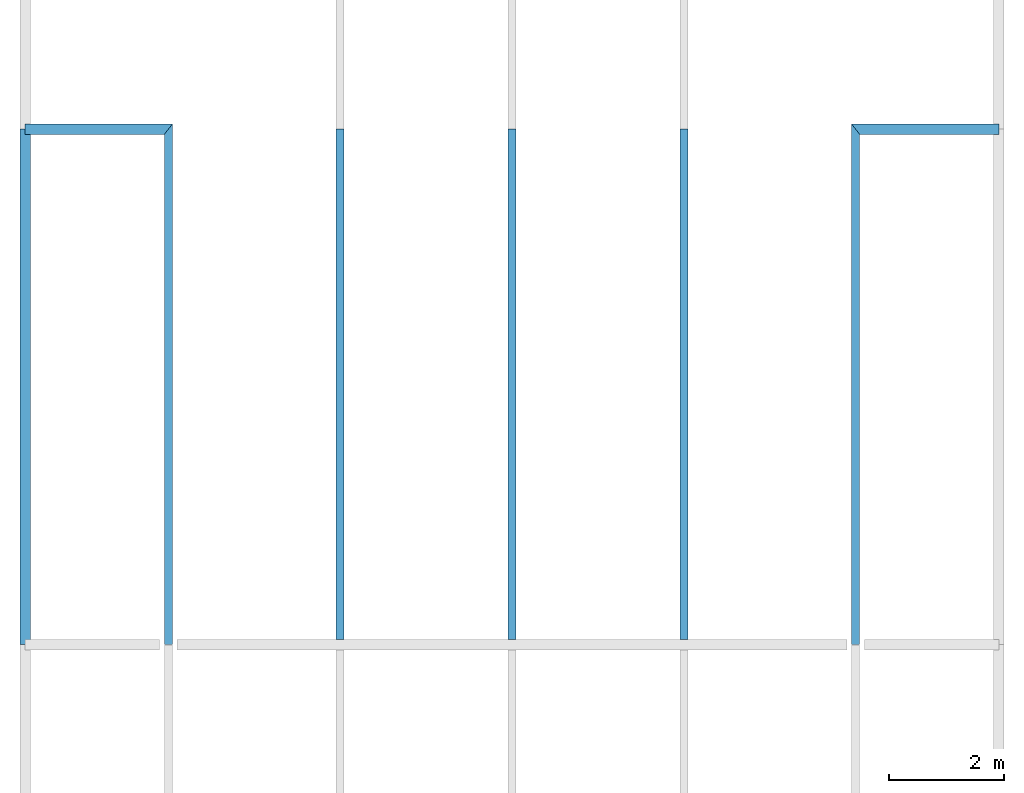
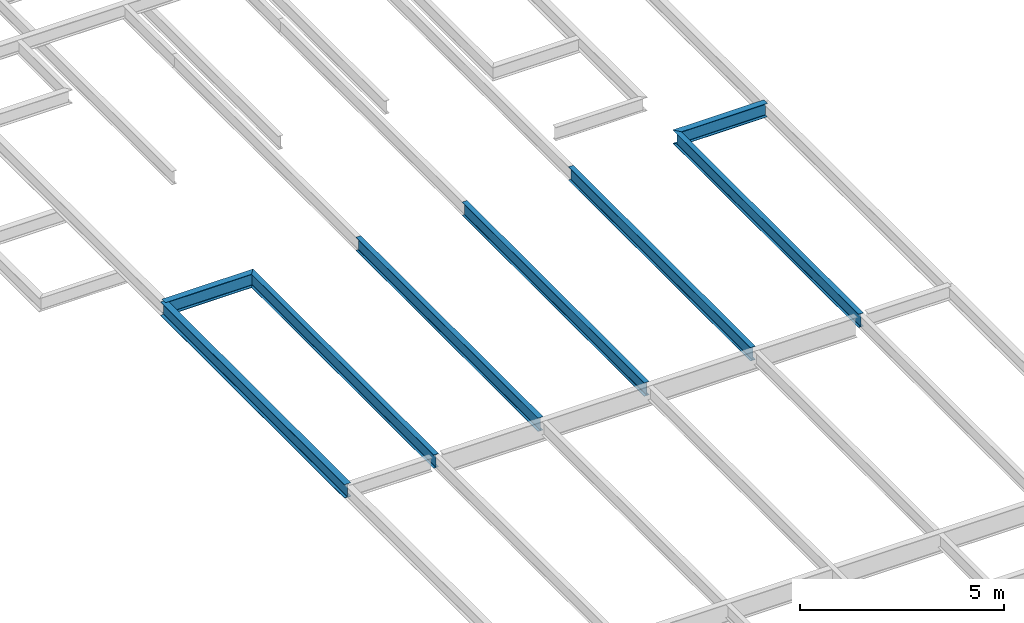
# One storey, part 3 of 7: 8 beams.
"""IFC2X3 building model written with IfcOpenShell, lengths in millimetres."""

from ifc_helpers import new_model, si_unit, origin, place, context, project, spatial, faceted_brep, material, element, save


model = new_model("IFC2X3")

# Units and contexts
context_of_model = context(None, 3, precision=1e-05, world=origin())
ifc_project = project(units=[si_unit("LENGTHUNIT", "METRE", prefix="MILLI")], contexts=[context_of_model])

# Building, storey
building = spatial("IfcBuilding", under=ifc_project, Name="Building", CompositionType="ELEMENT")
storey = spatial("IfcBuildingStorey", under=building, Name="ROF-FRM", CompositionType="ELEMENT")

# Beams
ifc_material_1 = material(Name="A992")
beam_1_placement = place(None, origin())
element("IfcBeam", 1, at=beam_1_placement, inside=storey, material=ifc_material_1, Name="B1131", context=context_of_model, shape_type="Brep", body=[
    faceted_brep([(12070.0, 17911.0, 31266.0), (11930.0, 18089.0, 31266.0), (14500.0, 18089.0, 31266.0), (14500.0, 17911.0, 31266.0), (11930.0, 18089.0, 31278.8), (14500.0, 18089.0, 31278.8), (11988.9, 18014.0, 31278.8), (14500.0, 18014.0, 31278.8), (11990.2, 18012.5, 31278.9), (14500.0, 18012.5, 31278.9), (11991.4, 18010.9, 31279.3), (14500.0, 18010.9, 31279.3), (11992.6, 18009.4, 31279.9), (14500.0, 18009.4, 31279.9), (11993.6, 18008.1, 31280.7), (14500.0, 18008.1, 31280.7), (11994.6, 18006.8, 31281.8), (14500.0, 18006.8, 31281.8), (11995.4, 18005.8, 31283.0), (14500.0, 18005.8, 31283.0), (11996.1, 18005.0, 31284.3), (14500.0, 18005.0, 31284.4), (11996.6, 18004.4, 31285.8), (14500.0, 18004.3, 31285.8), (11996.9, 18004.0, 31287.4), (14500.0, 18004.0, 31287.4), (11997.0, 18003.8, 31289.0), (14500.0, 18003.8, 31289.0), (11997.0, 18003.8, 31650.0), (14500.0, 18003.8, 31650.0), (11996.9, 18004.0, 31651.6), (14500.0, 18004.0, 31651.6), (11996.6, 18004.4, 31653.2), (14500.0, 18004.3, 31653.2), (11996.1, 18005.0, 31654.7), (14500.0, 18005.0, 31654.6), (11995.4, 18005.8, 31656.0), (14500.0, 18005.8, 31656.0), (11994.6, 18006.8, 31657.2), (14500.0, 18006.8, 31657.2), (11993.6, 18008.1, 31658.3), (14500.0, 18008.1, 31658.3), (11992.6, 18009.4, 31659.1), (14500.0, 18009.4, 31659.1), (11991.4, 18010.9, 31659.7), (14500.0, 18010.9, 31659.7), (11990.2, 18012.5, 31660.1), (14500.0, 18012.5, 31660.1), (11988.9, 18014.0, 31660.2), (14500.0, 18014.0, 31660.2), (11930.0, 18089.0, 31660.2), (14500.0, 18089.0, 31660.2), (11930.0, 18089.0, 31673.0), (14500.0, 18089.0, 31673.0), (12070.0, 17911.0, 31673.0), (14500.0, 17911.0, 31673.0), (12070.0, 17911.0, 31660.2), (14500.0, 17911.0, 31660.2), (12011.1, 17986.0, 31660.2), (14500.0, 17986.0, 31660.2), (12009.8, 17987.5, 31660.1), (14500.0, 17987.5, 31660.1), (12008.6, 17989.1, 31659.7), (14500.0, 17989.1, 31659.7), (12007.4, 17990.6, 31659.1), (14500.0, 17990.6, 31659.1), (12006.4, 17991.9, 31658.3), (14500.0, 17991.9, 31658.3), (12005.4, 17993.2, 31657.2), (14500.0, 17993.2, 31657.2), (12004.6, 17994.2, 31656.0), (14500.0, 17994.2, 31656.0), (12003.9, 17995.0, 31654.7), (14500.0, 17995.0, 31654.6), (12003.4, 17995.6, 31653.2), (14500.0, 17995.7, 31653.2), (12003.1, 17996.0, 31651.6), (14500.0, 17996.0, 31651.6), (12003.0, 17996.2, 31650.0), (14500.0, 17996.2, 31650.0), (12003.0, 17996.2, 31289.0), (14500.0, 17996.2, 31289.0), (12003.1, 17996.0, 31287.4), (14500.0, 17996.0, 31287.4), (12003.4, 17995.6, 31285.8), (14500.0, 17995.7, 31285.8), (12003.9, 17995.0, 31284.3), (14500.0, 17995.0, 31284.4), (12004.6, 17994.2, 31283.0), (14500.0, 17994.2, 31283.0), (12005.4, 17993.2, 31281.8), (14500.0, 17993.2, 31281.8), (12006.4, 17991.9, 31280.7), (14500.0, 17991.9, 31280.7), (12007.4, 17990.6, 31279.9), (14500.0, 17990.6, 31279.9), (12008.6, 17989.1, 31279.3), (14500.0, 17989.1, 31279.3), (12009.8, 17987.5, 31278.9), (14500.0, 17987.5, 31278.9), (12011.1, 17986.0, 31278.8), (14500.0, 17986.0, 31278.8), (12070.0, 17911.0, 31278.8), (14500.0, 17911.0, 31278.8)], [[[0, 1, 2, 3]], [[1, 4, 5, 2]], [[4, 6, 7, 5]], [[6, 8, 9, 7]], [[8, 10, 11, 9]], [[10, 12, 13, 11]], [[12, 14, 15, 13]], [[14, 16, 17, 15]], [[16, 18, 19, 17]], [[18, 20, 21, 19]], [[20, 22, 23, 21]], [[22, 24, 25, 23]], [[24, 26, 27, 25]], [[26, 28, 29, 27]], [[28, 30, 31, 29]], [[30, 32, 33, 31]], [[32, 34, 35, 33]], [[34, 36, 37, 35]], [[36, 38, 39, 37]], [[38, 40, 41, 39]], [[40, 42, 43, 41]], [[42, 44, 45, 43]], [[44, 46, 47, 45]], [[46, 48, 49, 47]], [[48, 50, 51, 49]], [[50, 52, 53, 51]], [[52, 54, 55, 53]], [[54, 56, 57, 55]], [[56, 58, 59, 57]], [[58, 60, 61, 59]], [[60, 62, 63, 61]], [[62, 64, 65, 63]], [[64, 66, 67, 65]], [[66, 68, 69, 67]], [[68, 70, 71, 69]], [[70, 72, 73, 71]], [[72, 74, 75, 73]], [[74, 76, 77, 75]], [[76, 78, 79, 77]], [[78, 80, 81, 79]], [[80, 82, 83, 81]], [[82, 84, 85, 83]], [[84, 86, 87, 85]], [[86, 88, 89, 87]], [[88, 90, 91, 89]], [[90, 92, 93, 91]], [[92, 94, 95, 93]], [[94, 96, 97, 95]], [[96, 98, 99, 97]], [[98, 100, 101, 99]], [[100, 102, 103, 101]], [[102, 0, 3, 103]], [[0, 102, 100, 98, 96, 94, 92, 90, 88, 86, 84, 82, 80, 78, 76, 74, 72, 70, 68, 66, 64, 62, 60, 58, 56, 54, 52, 50, 48, 46, 44, 42, 40, 38, 36, 34, 32, 30, 28, 26, 24, 22, 20, 18, 16, 14, 12, 10, 8, 6, 4, 1]], [[3, 2, 5, 7, 9, 11, 13, 15, 17, 19, 21, 23, 25, 27, 29, 31, 33, 35, 37, 39, 41, 43, 45, 47, 49, 51, 53, 55, 57, 59, 61, 63, 65, 67, 69, 71, 73, 75, 77, 79, 81, 83, 85, 87, 89, 91, 93, 95, 97, 99, 101, 103]]]),
])
ifc_material_2 = material(Name="A992")
beam_2_placement = place(None, origin())
element("IfcBeam", 2, at=beam_2_placement, inside=storey, material=ifc_material_2, Name="B1133", context=context_of_model, shape_type="Brep", body=[
    faceted_brep([(70.0, 18089.0, 31266.0), (-70.0, 17911.0, 31266.0), (-2500.0, 17911.0, 31266.0), (-2500.0, 18089.0, 31266.0), (-70.0, 17911.0, 31278.8), (-2500.0, 17911.0, 31278.8), (-11.0506, 17986.0, 31278.8), (-2500.0, 17986.0, 31278.8), (-9.80449, 17987.5, 31278.9), (-2500.0, 17987.5, 31278.9), (-8.57873, 17989.1, 31279.3), (-2500.0, 17989.1, 31279.3), (-7.42447, 17990.6, 31279.9), (-2500.0, 17990.6, 31279.9), (-6.35493, 17991.9, 31280.7), (-2500.0, 17991.9, 31280.7), (-5.37782, 17993.2, 31281.8), (-2500.0, 17993.2, 31281.8), (-4.58069, 17994.2, 31283.0), (-2500.0, 17994.2, 31283.0), (-3.90853, 17995.0, 31284.3), (-2500.0, 17995.0, 31284.4), (-3.43281, 17995.6, 31285.8), (-2500.0, 17995.7, 31285.8), (-3.14474, 17996.0, 31287.4), (-2500.0, 17996.0, 31287.4), (-3.02809, 17996.2, 31289.0), (-2500.0, 17996.2, 31289.0), (-3.02809, 17996.2, 31650.0), (-2500.0, 17996.2, 31650.0), (-3.14474, 17996.0, 31651.6), (-2500.0, 17996.0, 31651.6), (-3.43281, 17995.6, 31653.2), (-2500.0, 17995.7, 31653.2), (-3.90853, 17995.0, 31654.7), (-2500.0, 17995.0, 31654.6), (-4.58069, 17994.2, 31656.0), (-2500.0, 17994.2, 31656.0), (-5.37782, 17993.2, 31657.2), (-2500.0, 17993.2, 31657.2), (-6.35493, 17991.9, 31658.3), (-2500.0, 17991.9, 31658.3), (-7.42447, 17990.6, 31659.1), (-2500.0, 17990.6, 31659.1), (-8.57873, 17989.1, 31659.7), (-2500.0, 17989.1, 31659.7), (-9.80449, 17987.5, 31660.1), (-2500.0, 17987.5, 31660.1), (-11.0506, 17986.0, 31660.2), (-2500.0, 17986.0, 31660.2), (-70.0, 17911.0, 31660.2), (-2500.0, 17911.0, 31660.2), (-70.0, 17911.0, 31673.0), (-2500.0, 17911.0, 31673.0), (70.0, 18089.0, 31673.0), (-2500.0, 18089.0, 31673.0), (70.0, 18089.0, 31660.2), (-2500.0, 18089.0, 31660.2), (11.0506, 18014.0, 31660.2), (-2500.0, 18014.0, 31660.2), (9.80449, 18012.5, 31660.1), (-2500.0, 18012.5, 31660.1), (8.57873, 18010.9, 31659.7), (-2500.0, 18010.9, 31659.7), (7.42447, 18009.4, 31659.1), (-2500.0, 18009.4, 31659.1), (6.35493, 18008.1, 31658.3), (-2500.0, 18008.1, 31658.3), (5.37782, 18006.8, 31657.2), (-2500.0, 18006.8, 31657.2), (4.58069, 18005.8, 31656.0), (-2500.0, 18005.8, 31656.0), (3.90853, 18005.0, 31654.7), (-2500.0, 18005.0, 31654.6), (3.43281, 18004.4, 31653.2), (-2500.0, 18004.3, 31653.2), (3.14474, 18004.0, 31651.6), (-2500.0, 18004.0, 31651.6), (3.02809, 18003.8, 31650.0), (-2500.0, 18003.8, 31650.0), (3.02809, 18003.8, 31289.0), (-2500.0, 18003.8, 31289.0), (3.14474, 18004.0, 31287.4), (-2500.0, 18004.0, 31287.4), (3.43281, 18004.4, 31285.8), (-2500.0, 18004.3, 31285.8), (3.90853, 18005.0, 31284.3), (-2500.0, 18005.0, 31284.4), (4.58069, 18005.8, 31283.0), (-2500.0, 18005.8, 31283.0), (5.37782, 18006.8, 31281.8), (-2500.0, 18006.8, 31281.8), (6.35493, 18008.1, 31280.7), (-2500.0, 18008.1, 31280.7), (7.42447, 18009.4, 31279.9), (-2500.0, 18009.4, 31279.9), (8.57873, 18010.9, 31279.3), (-2500.0, 18010.9, 31279.3), (9.80449, 18012.5, 31278.9), (-2500.0, 18012.5, 31278.9), (11.0506, 18014.0, 31278.8), (-2500.0, 18014.0, 31278.8), (70.0, 18089.0, 31278.8), (-2500.0, 18089.0, 31278.8)], [[[0, 1, 2, 3]], [[1, 4, 5, 2]], [[4, 6, 7, 5]], [[6, 8, 9, 7]], [[8, 10, 11, 9]], [[10, 12, 13, 11]], [[12, 14, 15, 13]], [[14, 16, 17, 15]], [[16, 18, 19, 17]], [[18, 20, 21, 19]], [[20, 22, 23, 21]], [[22, 24, 25, 23]], [[24, 26, 27, 25]], [[26, 28, 29, 27]], [[28, 30, 31, 29]], [[30, 32, 33, 31]], [[32, 34, 35, 33]], [[34, 36, 37, 35]], [[36, 38, 39, 37]], [[38, 40, 41, 39]], [[40, 42, 43, 41]], [[42, 44, 45, 43]], [[44, 46, 47, 45]], [[46, 48, 49, 47]], [[48, 50, 51, 49]], [[50, 52, 53, 51]], [[52, 54, 55, 53]], [[54, 56, 57, 55]], [[56, 58, 59, 57]], [[58, 60, 61, 59]], [[60, 62, 63, 61]], [[62, 64, 65, 63]], [[64, 66, 67, 65]], [[66, 68, 69, 67]], [[68, 70, 71, 69]], [[70, 72, 73, 71]], [[72, 74, 75, 73]], [[74, 76, 77, 75]], [[76, 78, 79, 77]], [[78, 80, 81, 79]], [[80, 82, 83, 81]], [[82, 84, 85, 83]], [[84, 86, 87, 85]], [[86, 88, 89, 87]], [[88, 90, 91, 89]], [[90, 92, 93, 91]], [[92, 94, 95, 93]], [[94, 96, 97, 95]], [[96, 98, 99, 97]], [[98, 100, 101, 99]], [[100, 102, 103, 101]], [[102, 0, 3, 103]], [[0, 102, 100, 98, 96, 94, 92, 90, 88, 86, 84, 82, 80, 78, 76, 74, 72, 70, 68, 66, 64, 62, 60, 58, 56, 54, 52, 50, 48, 46, 44, 42, 40, 38, 36, 34, 32, 30, 28, 26, 24, 22, 20, 18, 16, 14, 12, 10, 8, 6, 4, 1]], [[3, 2, 5, 7, 9, 11, 13, 15, 17, 19, 21, 23, 25, 27, 29, 31, 33, 35, 37, 39, 41, 43, 45, 47, 49, 51, 53, 55, 57, 59, 61, 63, 65, 67, 69, 71, 73, 75, 77, 79, 81, 83, 85, 87, 89, 91, 93, 95, 97, 99, 101, 103]]]),
])
ifc_material_3 = material(Name="A992")
beam_3_placement = place(None, origin())
element("IfcBeam", 3, at=beam_3_placement, inside=storey, material=ifc_material_3, Name="B1141", context=context_of_model, shape_type="Brep", body=[
    faceted_brep([(-2410.0, 9000.0, 31260.0), (-2590.0, 9000.0, 31260.0), (-2590.0, 18000.0, 31260.0), (-2410.0, 18000.0, 31260.0), (-2590.0, 9000.0, 31276.0), (-2590.0, 18000.0, 31276.0), (-2515.05, 9000.0, 31276.0), (-2515.05, 18000.0, 31276.0), (-2512.41, 9000.0, 31276.3), (-2512.41, 18000.0, 31276.3), (-2509.95, 9000.0, 31277.4), (-2509.95, 18000.0, 31277.4), (-2507.84, 9000.0, 31279.0), (-2507.84, 18000.0, 31279.0), (-2506.22, 9000.0, 31281.1), (-2506.22, 18000.0, 31281.1), (-2505.2, 9000.0, 31283.6), (-2505.2, 18000.0, 31283.6), (-2504.85, 9000.0, 31286.2), (-2504.85, 18000.0, 31286.2), (-2504.85, 9000.0, 31646.8), (-2504.85, 18000.0, 31646.8), (-2505.2, 9000.0, 31649.4), (-2505.2, 18000.0, 31649.4), (-2506.22, 9000.0, 31651.9), (-2506.22, 18000.0, 31651.9), (-2507.84, 9000.0, 31654.0), (-2507.84, 18000.0, 31654.0), (-2509.95, 9000.0, 31655.6), (-2509.95, 18000.0, 31655.6), (-2512.41, 9000.0, 31656.7), (-2512.41, 18000.0, 31656.7), (-2515.05, 9000.0, 31657.0), (-2515.05, 18000.0, 31657.0), (-2590.0, 9000.0, 31657.0), (-2590.0, 18000.0, 31657.0), (-2590.0, 9000.0, 31673.0), (-2590.0, 18000.0, 31673.0), (-2410.0, 9000.0, 31673.0), (-2410.0, 18000.0, 31673.0), (-2410.0, 9000.0, 31657.0), (-2410.0, 18000.0, 31657.0), (-2484.95, 9000.0, 31657.0), (-2484.95, 18000.0, 31657.0), (-2487.59, 9000.0, 31656.7), (-2487.59, 18000.0, 31656.7), (-2490.05, 9000.0, 31655.6), (-2490.05, 18000.0, 31655.6), (-2492.16, 9000.0, 31654.0), (-2492.16, 18000.0, 31654.0), (-2493.78, 9000.0, 31651.9), (-2493.78, 18000.0, 31651.9), (-2494.8, 9000.0, 31649.4), (-2494.8, 18000.0, 31649.4), (-2495.15, 9000.0, 31646.8), (-2495.15, 18000.0, 31646.8), (-2495.15, 9000.0, 31286.2), (-2495.15, 18000.0, 31286.2), (-2494.8, 9000.0, 31283.6), (-2494.8, 18000.0, 31283.6), (-2493.78, 9000.0, 31281.1), (-2493.78, 18000.0, 31281.1), (-2492.16, 9000.0, 31279.0), (-2492.16, 18000.0, 31279.0), (-2490.05, 9000.0, 31277.4), (-2490.05, 18000.0, 31277.4), (-2487.59, 9000.0, 31276.3), (-2487.59, 18000.0, 31276.3), (-2484.95, 9000.0, 31276.0), (-2484.95, 18000.0, 31276.0), (-2410.0, 9000.0, 31276.0), (-2410.0, 18000.0, 31276.0)], [[[0, 1, 2, 3]], [[1, 4, 5, 2]], [[4, 6, 7, 5]], [[6, 8, 9, 7]], [[8, 10, 11, 9]], [[10, 12, 13, 11]], [[12, 14, 15, 13]], [[14, 16, 17, 15]], [[16, 18, 19, 17]], [[18, 20, 21, 19]], [[20, 22, 23, 21]], [[22, 24, 25, 23]], [[24, 26, 27, 25]], [[26, 28, 29, 27]], [[28, 30, 31, 29]], [[30, 32, 33, 31]], [[32, 34, 35, 33]], [[34, 36, 37, 35]], [[36, 38, 39, 37]], [[38, 40, 41, 39]], [[40, 42, 43, 41]], [[42, 44, 45, 43]], [[44, 46, 47, 45]], [[46, 48, 49, 47]], [[48, 50, 51, 49]], [[50, 52, 53, 51]], [[52, 54, 55, 53]], [[54, 56, 57, 55]], [[56, 58, 59, 57]], [[58, 60, 61, 59]], [[60, 62, 63, 61]], [[62, 64, 65, 63]], [[64, 66, 67, 65]], [[66, 68, 69, 67]], [[68, 70, 71, 69]], [[70, 0, 3, 71]], [[0, 70, 68, 66, 64, 62, 60, 58, 56, 54, 52, 50, 48, 46, 44, 42, 40, 38, 36, 34, 32, 30, 28, 26, 24, 22, 20, 18, 16, 14, 12, 10, 8, 6, 4, 1]], [[3, 2, 5, 7, 9, 11, 13, 15, 17, 19, 21, 23, 25, 27, 29, 31, 33, 35, 37, 39, 41, 43, 45, 47, 49, 51, 53, 55, 57, 59, 61, 63, 65, 67, 69, 71]]]),
])
ifc_material_4 = material(Name="A992")
beam_4_placement = place(None, origin())
element("IfcBeam", 4, at=beam_4_placement, inside=storey, material=ifc_material_4, Name="B1158", context=context_of_model, shape_type="Brep", body=[
    faceted_brep([(5930.0, 18000.0, 31270.0), (6070.0, 18000.0, 31270.0), (6070.0, 9089.5, 31270.0), (5930.0, 9089.5, 31270.0), (6070.0, 18000.0, 31281.2), (6070.0, 9089.5, 31281.2), (6013.7, 18000.0, 31281.2), (6013.7, 9089.5, 31281.2), (6011.06, 18000.0, 31281.5), (6011.06, 9089.5, 31281.5), (6008.6, 18000.0, 31282.6), (6008.6, 9089.5, 31282.6), (6006.49, 18000.0, 31284.2), (6006.49, 9089.5, 31284.2), (6004.87, 18000.0, 31286.3), (6004.87, 9089.5, 31286.3), (6003.85, 18000.0, 31288.8), (6003.85, 9089.5, 31288.8), (6003.5, 18000.0, 31291.4), (6003.5, 9089.5, 31291.4), (6003.5, 18000.0, 31651.6), (6003.5, 9089.5, 31651.6), (6003.85, 18000.0, 31654.2), (6003.85, 9089.5, 31654.2), (6004.87, 18000.0, 31656.7), (6004.87, 9089.5, 31656.7), (6006.49, 18000.0, 31658.8), (6006.49, 9089.5, 31658.8), (6008.6, 18000.0, 31660.4), (6008.6, 9089.5, 31660.4), (6011.06, 18000.0, 31661.5), (6011.06, 9089.5, 31661.5), (6013.7, 18000.0, 31661.8), (6013.7, 9089.5, 31661.8), (6070.0, 18000.0, 31661.8), (6070.0, 9089.5, 31661.8), (6070.0, 18000.0, 31673.0), (6070.0, 9089.5, 31673.0), (5930.0, 18000.0, 31673.0), (5930.0, 9089.5, 31673.0), (5930.0, 18000.0, 31661.8), (5930.0, 9089.5, 31661.8), (5986.3, 18000.0, 31661.8), (5986.3, 9089.5, 31661.8), (5988.94, 18000.0, 31661.5), (5988.94, 9089.5, 31661.5), (5991.4, 18000.0, 31660.4), (5991.4, 9089.5, 31660.4), (5993.51, 18000.0, 31658.8), (5993.51, 9089.5, 31658.8), (5995.13, 18000.0, 31656.7), (5995.13, 9089.5, 31656.7), (5996.15, 18000.0, 31654.2), (5996.15, 9089.5, 31654.2), (5996.5, 18000.0, 31651.6), (5996.5, 9089.5, 31651.6), (5996.5, 18000.0, 31291.4), (5996.5, 9089.5, 31291.4), (5996.15, 18000.0, 31288.8), (5996.15, 9089.5, 31288.8), (5995.13, 18000.0, 31286.3), (5995.13, 9089.5, 31286.3), (5993.51, 18000.0, 31284.2), (5993.51, 9089.5, 31284.2), (5991.4, 18000.0, 31282.6), (5991.4, 9089.5, 31282.6), (5988.94, 18000.0, 31281.5), (5988.94, 9089.5, 31281.5), (5986.3, 18000.0, 31281.2), (5986.3, 9089.5, 31281.2), (5930.0, 18000.0, 31281.2), (5930.0, 9089.5, 31281.2)], [[[0, 1, 2, 3]], [[1, 4, 5, 2]], [[4, 6, 7, 5]], [[6, 8, 9, 7]], [[8, 10, 11, 9]], [[10, 12, 13, 11]], [[12, 14, 15, 13]], [[14, 16, 17, 15]], [[16, 18, 19, 17]], [[18, 20, 21, 19]], [[20, 22, 23, 21]], [[22, 24, 25, 23]], [[24, 26, 27, 25]], [[26, 28, 29, 27]], [[28, 30, 31, 29]], [[30, 32, 33, 31]], [[32, 34, 35, 33]], [[34, 36, 37, 35]], [[36, 38, 39, 37]], [[38, 40, 41, 39]], [[40, 42, 43, 41]], [[42, 44, 45, 43]], [[44, 46, 47, 45]], [[46, 48, 49, 47]], [[48, 50, 51, 49]], [[50, 52, 53, 51]], [[52, 54, 55, 53]], [[54, 56, 57, 55]], [[56, 58, 59, 57]], [[58, 60, 61, 59]], [[60, 62, 63, 61]], [[62, 64, 65, 63]], [[64, 66, 67, 65]], [[66, 68, 69, 67]], [[68, 70, 71, 69]], [[70, 0, 3, 71]], [[0, 70, 68, 66, 64, 62, 60, 58, 56, 54, 52, 50, 48, 46, 44, 42, 40, 38, 36, 34, 32, 30, 28, 26, 24, 22, 20, 18, 16, 14, 12, 10, 8, 6, 4, 1]], [[3, 2, 5, 7, 9, 11, 13, 15, 17, 19, 21, 23, 25, 27, 29, 31, 33, 35, 37, 39, 41, 43, 45, 47, 49, 51, 53, 55, 57, 59, 61, 63, 65, 67, 69, 71]]]),
])
ifc_material_5 = material(Name="A992")
beam_5_placement = place(None, origin())
element("IfcBeam", 5, at=beam_5_placement, inside=storey, material=ifc_material_5, Name="B1163", context=context_of_model, shape_type="Brep", body=[
    faceted_brep([(8930.0, 18000.0, 31270.0), (9070.0, 18000.0, 31270.0), (9070.0, 9089.5, 31270.0), (8930.0, 9089.5, 31270.0), (9070.0, 18000.0, 31281.2), (9070.0, 9089.5, 31281.2), (9013.7, 18000.0, 31281.2), (9013.7, 9089.5, 31281.2), (9011.06, 18000.0, 31281.5), (9011.06, 9089.5, 31281.5), (9008.6, 18000.0, 31282.6), (9008.6, 9089.5, 31282.6), (9006.49, 18000.0, 31284.2), (9006.49, 9089.5, 31284.2), (9004.87, 18000.0, 31286.3), (9004.87, 9089.5, 31286.3), (9003.85, 18000.0, 31288.8), (9003.85, 9089.5, 31288.8), (9003.5, 18000.0, 31291.4), (9003.5, 9089.5, 31291.4), (9003.5, 18000.0, 31651.6), (9003.5, 9089.5, 31651.6), (9003.85, 18000.0, 31654.2), (9003.85, 9089.5, 31654.2), (9004.87, 18000.0, 31656.7), (9004.87, 9089.5, 31656.7), (9006.49, 18000.0, 31658.8), (9006.49, 9089.5, 31658.8), (9008.6, 18000.0, 31660.4), (9008.6, 9089.5, 31660.4), (9011.06, 18000.0, 31661.5), (9011.06, 9089.5, 31661.5), (9013.7, 18000.0, 31661.8), (9013.7, 9089.5, 31661.8), (9070.0, 18000.0, 31661.8), (9070.0, 9089.5, 31661.8), (9070.0, 18000.0, 31673.0), (9070.0, 9089.5, 31673.0), (8930.0, 18000.0, 31673.0), (8930.0, 9089.5, 31673.0), (8930.0, 18000.0, 31661.8), (8930.0, 9089.5, 31661.8), (8986.3, 18000.0, 31661.8), (8986.3, 9089.5, 31661.8), (8988.94, 18000.0, 31661.5), (8988.94, 9089.5, 31661.5), (8991.4, 18000.0, 31660.4), (8991.4, 9089.5, 31660.4), (8993.51, 18000.0, 31658.8), (8993.51, 9089.5, 31658.8), (8995.13, 18000.0, 31656.7), (8995.13, 9089.5, 31656.7), (8996.15, 18000.0, 31654.2), (8996.15, 9089.5, 31654.2), (8996.5, 18000.0, 31651.6), (8996.5, 9089.5, 31651.6), (8996.5, 18000.0, 31291.4), (8996.5, 9089.5, 31291.4), (8996.15, 18000.0, 31288.8), (8996.15, 9089.5, 31288.8), (8995.13, 18000.0, 31286.3), (8995.13, 9089.5, 31286.3), (8993.51, 18000.0, 31284.2), (8993.51, 9089.5, 31284.2), (8991.4, 18000.0, 31282.6), (8991.4, 9089.5, 31282.6), (8988.94, 18000.0, 31281.5), (8988.94, 9089.5, 31281.5), (8986.3, 18000.0, 31281.2), (8986.3, 9089.5, 31281.2), (8930.0, 18000.0, 31281.2), (8930.0, 9089.5, 31281.2)], [[[0, 1, 2, 3]], [[1, 4, 5, 2]], [[4, 6, 7, 5]], [[6, 8, 9, 7]], [[8, 10, 11, 9]], [[10, 12, 13, 11]], [[12, 14, 15, 13]], [[14, 16, 17, 15]], [[16, 18, 19, 17]], [[18, 20, 21, 19]], [[20, 22, 23, 21]], [[22, 24, 25, 23]], [[24, 26, 27, 25]], [[26, 28, 29, 27]], [[28, 30, 31, 29]], [[30, 32, 33, 31]], [[32, 34, 35, 33]], [[34, 36, 37, 35]], [[36, 38, 39, 37]], [[38, 40, 41, 39]], [[40, 42, 43, 41]], [[42, 44, 45, 43]], [[44, 46, 47, 45]], [[46, 48, 49, 47]], [[48, 50, 51, 49]], [[50, 52, 53, 51]], [[52, 54, 55, 53]], [[54, 56, 57, 55]], [[56, 58, 59, 57]], [[58, 60, 61, 59]], [[60, 62, 63, 61]], [[62, 64, 65, 63]], [[64, 66, 67, 65]], [[66, 68, 69, 67]], [[68, 70, 71, 69]], [[70, 0, 3, 71]], [[0, 70, 68, 66, 64, 62, 60, 58, 56, 54, 52, 50, 48, 46, 44, 42, 40, 38, 36, 34, 32, 30, 28, 26, 24, 22, 20, 18, 16, 14, 12, 10, 8, 6, 4, 1]], [[3, 2, 5, 7, 9, 11, 13, 15, 17, 19, 21, 23, 25, 27, 29, 31, 33, 35, 37, 39, 41, 43, 45, 47, 49, 51, 53, 55, 57, 59, 61, 63, 65, 67, 69, 71]]]),
])
ifc_material_6 = material(Name="A992")
beam_6_placement = place(None, origin())
element("IfcBeam", 6, at=beam_6_placement, inside=storey, material=ifc_material_6, Name="B1166", context=context_of_model, shape_type="Brep", body=[
    faceted_brep([(11930.0, 18089.0, 31270.0), (12070.0, 17911.0, 31270.0), (12070.0, 9004.95, 31270.0), (11930.0, 9004.95, 31270.0), (12070.0, 17911.0, 31281.2), (12070.0, 9004.95, 31281.2), (12013.7, 17982.6, 31281.2), (12013.7, 9004.95, 31281.2), (12012.3, 17984.4, 31281.3), (12012.2, 9004.95, 31281.3), (12010.8, 17986.2, 31281.6), (12010.8, 9004.95, 31281.6), (12009.5, 17987.9, 31282.1), (12009.5, 9004.95, 31282.1), (12008.2, 17989.5, 31282.8), (12008.2, 9004.95, 31282.8), (12007.0, 17991.0, 31283.6), (12007.0, 9004.95, 31283.7), (12006.0, 17992.3, 31284.7), (12006.0, 9004.95, 31284.7), (12005.2, 17993.4, 31285.8), (12005.1, 9004.95, 31285.9), (12004.4, 17994.4, 31287.1), (12004.4, 9004.95, 31287.2), (12004.0, 17995.0, 31288.5), (12003.9, 9004.95, 31288.5), (12003.7, 17995.4, 31289.9), (12003.6, 9004.95, 31289.9), (12003.5, 17995.6, 31291.4), (12003.5, 9004.95, 31291.4), (12003.5, 17995.6, 31651.6), (12003.5, 9004.95, 31651.6), (12003.7, 17995.4, 31653.1), (12003.6, 9004.95, 31653.1), (12004.0, 17995.0, 31654.5), (12003.9, 9004.95, 31654.5), (12004.4, 17994.4, 31655.9), (12004.4, 9004.95, 31655.8), (12005.2, 17993.4, 31657.2), (12005.1, 9004.95, 31657.1), (12006.0, 17992.3, 31658.3), (12006.0, 9004.95, 31658.3), (12007.0, 17991.0, 31659.4), (12007.0, 9004.95, 31659.3), (12008.2, 17989.5, 31660.2), (12008.2, 9004.95, 31660.2), (12009.5, 17987.9, 31660.9), (12009.5, 9004.95, 31660.9), (12010.8, 17986.2, 31661.4), (12010.8, 9004.95, 31661.4), (12012.3, 17984.4, 31661.7), (12012.2, 9004.95, 31661.7), (12013.7, 17982.6, 31661.8), (12013.7, 9004.95, 31661.8), (12070.0, 17911.0, 31661.8), (12070.0, 9004.95, 31661.8), (12070.0, 17911.0, 31673.0), (12070.0, 9004.95, 31673.0), (11930.0, 18089.0, 31673.0), (11930.0, 9004.95, 31673.0), (11930.0, 18089.0, 31661.8), (11930.0, 9004.95, 31661.8), (11986.3, 18017.4, 31661.8), (11986.3, 9004.95, 31661.8), (11987.7, 18015.6, 31661.7), (11987.8, 9004.95, 31661.7), (11989.2, 18013.8, 31661.4), (11989.2, 9004.95, 31661.4), (11990.5, 18012.1, 31660.9), (11990.5, 9004.95, 31660.9), (11991.8, 18010.5, 31660.2), (11991.8, 9004.95, 31660.2), (11993.0, 18009.0, 31659.4), (11993.0, 9004.95, 31659.3), (11994.0, 18007.7, 31658.3), (11994.0, 9004.95, 31658.3), (11994.8, 18006.6, 31657.2), (11994.9, 9004.95, 31657.1), (11995.6, 18005.6, 31655.9), (11995.6, 9004.95, 31655.8), (11996.0, 18005.0, 31654.5), (11996.1, 9004.95, 31654.5), (11996.3, 18004.6, 31653.1), (11996.4, 9004.95, 31653.1), (11996.5, 18004.5, 31651.6), (11996.5, 9004.95, 31651.6), (11996.5, 18004.4, 31291.4), (11996.5, 9004.95, 31291.4), (11996.3, 18004.6, 31289.9), (11996.4, 9004.95, 31289.9), (11996.0, 18005.0, 31288.5), (11996.1, 9004.95, 31288.5), (11995.6, 18005.6, 31287.1), (11995.6, 9004.95, 31287.2), (11994.8, 18006.6, 31285.8), (11994.9, 9004.95, 31285.9), (11994.0, 18007.7, 31284.7), (11994.0, 9004.95, 31284.7), (11993.0, 18009.0, 31283.6), (11993.0, 9004.95, 31283.7), (11991.8, 18010.5, 31282.8), (11991.8, 9004.95, 31282.8), (11990.5, 18012.1, 31282.1), (11990.5, 9004.95, 31282.1), (11989.2, 18013.8, 31281.6), (11989.2, 9004.95, 31281.6), (11987.7, 18015.6, 31281.3), (11987.8, 9004.95, 31281.3), (11986.3, 18017.4, 31281.2), (11986.3, 9004.95, 31281.2), (11930.0, 18089.0, 31281.2), (11930.0, 9004.95, 31281.2)], [[[0, 1, 2, 3]], [[1, 4, 5, 2]], [[4, 6, 7, 5]], [[6, 8, 9, 7]], [[8, 10, 11, 9]], [[10, 12, 13, 11]], [[12, 14, 15, 13]], [[14, 16, 17, 15]], [[16, 18, 19, 17]], [[18, 20, 21, 19]], [[20, 22, 23, 21]], [[22, 24, 25, 23]], [[24, 26, 27, 25]], [[26, 28, 29, 27]], [[28, 30, 31, 29]], [[30, 32, 33, 31]], [[32, 34, 35, 33]], [[34, 36, 37, 35]], [[36, 38, 39, 37]], [[38, 40, 41, 39]], [[40, 42, 43, 41]], [[42, 44, 45, 43]], [[44, 46, 47, 45]], [[46, 48, 49, 47]], [[48, 50, 51, 49]], [[50, 52, 53, 51]], [[52, 54, 55, 53]], [[54, 56, 57, 55]], [[56, 58, 59, 57]], [[58, 60, 61, 59]], [[60, 62, 63, 61]], [[62, 64, 65, 63]], [[64, 66, 67, 65]], [[66, 68, 69, 67]], [[68, 70, 71, 69]], [[70, 72, 73, 71]], [[72, 74, 75, 73]], [[74, 76, 77, 75]], [[76, 78, 79, 77]], [[78, 80, 81, 79]], [[80, 82, 83, 81]], [[82, 84, 85, 83]], [[84, 86, 87, 85]], [[86, 88, 89, 87]], [[88, 90, 91, 89]], [[90, 92, 93, 91]], [[92, 94, 95, 93]], [[94, 96, 97, 95]], [[96, 98, 99, 97]], [[98, 100, 101, 99]], [[100, 102, 103, 101]], [[102, 104, 105, 103]], [[104, 106, 107, 105]], [[106, 108, 109, 107]], [[108, 110, 111, 109]], [[110, 0, 3, 111]], [[0, 110, 108, 106, 104, 102, 100, 98, 96, 94, 92, 90, 88, 86, 84, 82, 80, 78, 76, 74, 72, 70, 68, 66, 64, 62, 60, 58, 56, 54, 52, 50, 48, 46, 44, 42, 40, 38, 36, 34, 32, 30, 28, 26, 24, 22, 20, 18, 16, 14, 12, 10, 8, 6, 4, 1]], [[3, 2, 5, 7, 9, 11, 13, 15, 17, 19, 21, 23, 25, 27, 29, 31, 33, 35, 37, 39, 41, 43, 45, 47, 49, 51, 53, 55, 57, 59, 61, 63, 65, 67, 69, 71, 73, 75, 77, 79, 81, 83, 85, 87, 89, 91, 93, 95, 97, 99, 101, 103, 105, 107, 109, 111]]]),
])
ifc_material_7 = material(Name="A992")
beam_7_placement = place(None, origin())
element("IfcBeam", 7, at=beam_7_placement, inside=storey, material=ifc_material_7, Name="B1169", context=context_of_model, shape_type="Brep", body=[
    faceted_brep([(2930.0, 18000.0, 31270.0), (3070.0, 18000.0, 31270.0), (3070.0, 9089.5, 31270.0), (2930.0, 9089.5, 31270.0), (3070.0, 18000.0, 31281.2), (3070.0, 9089.5, 31281.2), (3013.7, 18000.0, 31281.2), (3013.7, 9089.5, 31281.2), (3011.06, 18000.0, 31281.5), (3011.06, 9089.5, 31281.5), (3008.6, 18000.0, 31282.6), (3008.6, 9089.5, 31282.6), (3006.49, 18000.0, 31284.2), (3006.49, 9089.5, 31284.2), (3004.87, 18000.0, 31286.3), (3004.87, 9089.5, 31286.3), (3003.85, 18000.0, 31288.8), (3003.85, 9089.5, 31288.8), (3003.5, 18000.0, 31291.4), (3003.5, 9089.5, 31291.4), (3003.5, 18000.0, 31651.6), (3003.5, 9089.5, 31651.6), (3003.85, 18000.0, 31654.2), (3003.85, 9089.5, 31654.2), (3004.87, 18000.0, 31656.7), (3004.87, 9089.5, 31656.7), (3006.49, 18000.0, 31658.8), (3006.49, 9089.5, 31658.8), (3008.6, 18000.0, 31660.4), (3008.6, 9089.5, 31660.4), (3011.06, 18000.0, 31661.5), (3011.06, 9089.5, 31661.5), (3013.7, 18000.0, 31661.8), (3013.7, 9089.5, 31661.8), (3070.0, 18000.0, 31661.8), (3070.0, 9089.5, 31661.8), (3070.0, 18000.0, 31673.0), (3070.0, 9089.5, 31673.0), (2930.0, 18000.0, 31673.0), (2930.0, 9089.5, 31673.0), (2930.0, 18000.0, 31661.8), (2930.0, 9089.5, 31661.8), (2986.3, 18000.0, 31661.8), (2986.3, 9089.5, 31661.8), (2988.94, 18000.0, 31661.5), (2988.94, 9089.5, 31661.5), (2991.4, 18000.0, 31660.4), (2991.4, 9089.5, 31660.4), (2993.51, 18000.0, 31658.8), (2993.51, 9089.5, 31658.8), (2995.13, 18000.0, 31656.7), (2995.13, 9089.5, 31656.7), (2996.15, 18000.0, 31654.2), (2996.15, 9089.5, 31654.2), (2996.5, 18000.0, 31651.6), (2996.5, 9089.5, 31651.6), (2996.5, 18000.0, 31291.4), (2996.5, 9089.5, 31291.4), (2996.15, 18000.0, 31288.8), (2996.15, 9089.5, 31288.8), (2995.13, 18000.0, 31286.3), (2995.13, 9089.5, 31286.3), (2993.51, 18000.0, 31284.2), (2993.51, 9089.5, 31284.2), (2991.4, 18000.0, 31282.6), (2991.4, 9089.5, 31282.6), (2988.94, 18000.0, 31281.5), (2988.94, 9089.5, 31281.5), (2986.3, 18000.0, 31281.2), (2986.3, 9089.5, 31281.2), (2930.0, 18000.0, 31281.2), (2930.0, 9089.5, 31281.2)], [[[0, 1, 2, 3]], [[1, 4, 5, 2]], [[4, 6, 7, 5]], [[6, 8, 9, 7]], [[8, 10, 11, 9]], [[10, 12, 13, 11]], [[12, 14, 15, 13]], [[14, 16, 17, 15]], [[16, 18, 19, 17]], [[18, 20, 21, 19]], [[20, 22, 23, 21]], [[22, 24, 25, 23]], [[24, 26, 27, 25]], [[26, 28, 29, 27]], [[28, 30, 31, 29]], [[30, 32, 33, 31]], [[32, 34, 35, 33]], [[34, 36, 37, 35]], [[36, 38, 39, 37]], [[38, 40, 41, 39]], [[40, 42, 43, 41]], [[42, 44, 45, 43]], [[44, 46, 47, 45]], [[46, 48, 49, 47]], [[48, 50, 51, 49]], [[50, 52, 53, 51]], [[52, 54, 55, 53]], [[54, 56, 57, 55]], [[56, 58, 59, 57]], [[58, 60, 61, 59]], [[60, 62, 63, 61]], [[62, 64, 65, 63]], [[64, 66, 67, 65]], [[66, 68, 69, 67]], [[68, 70, 71, 69]], [[70, 0, 3, 71]], [[0, 70, 68, 66, 64, 62, 60, 58, 56, 54, 52, 50, 48, 46, 44, 42, 40, 38, 36, 34, 32, 30, 28, 26, 24, 22, 20, 18, 16, 14, 12, 10, 8, 6, 4, 1]], [[3, 2, 5, 7, 9, 11, 13, 15, 17, 19, 21, 23, 25, 27, 29, 31, 33, 35, 37, 39, 41, 43, 45, 47, 49, 51, 53, 55, 57, 59, 61, 63, 65, 67, 69, 71]]]),
])
ifc_material_8 = material(Name="A992")
beam_8_placement = place(None, origin())
element("IfcBeam", 8, at=beam_8_placement, inside=storey, material=ifc_material_8, Name="B1172", context=context_of_model, shape_type="Brep", body=[
    faceted_brep([(-70.0, 17911.0, 31270.0), (70.0, 18089.0, 31270.0), (70.0, 9004.95, 31270.0), (-70.0, 9004.95, 31270.0), (70.0, 18089.0, 31281.2), (70.0, 9004.95, 31281.2), (13.7, 18017.4, 31281.2), (13.7, 9004.95, 31281.2), (12.2666, 18015.6, 31281.3), (12.2485, 9004.95, 31281.3), (10.8454, 18013.8, 31281.6), (10.8264, 9004.95, 31281.6), (9.48121, 18012.1, 31282.1), (9.4628, 9004.95, 31282.1), (8.23548, 18010.5, 31282.8), (8.18581, 9004.95, 31282.8), (7.04703, 18009.0, 31283.6), (7.02055, 9004.95, 31283.7), (6.02901, 18007.7, 31284.7), (5.99154, 9004.95, 31284.7), (5.15916, 18006.6, 31285.8), (5.11973, 9004.95, 31285.9), (4.42728, 18005.6, 31287.1), (4.42181, 9004.95, 31287.2), (3.954, 18005.0, 31288.5), (3.91356, 9004.95, 31288.5), (3.65083, 18004.6, 31289.9), (3.60435, 9004.95, 31289.9), (3.5, 18004.4, 31291.4), (3.5, 9004.95, 31291.4), (3.5, 18004.5, 31651.6), (3.5, 9004.95, 31651.6), (3.65083, 18004.6, 31653.1), (3.60435, 9004.95, 31653.1), (3.954, 18005.0, 31654.5), (3.91356, 9004.95, 31654.5), (4.42728, 18005.6, 31655.9), (4.42181, 9004.95, 31655.8), (5.15916, 18006.6, 31657.2), (5.11973, 9004.95, 31657.1), (6.02901, 18007.7, 31658.3), (5.99154, 9004.95, 31658.3), (7.04703, 18009.0, 31659.4), (7.02055, 9004.95, 31659.3), (8.23548, 18010.5, 31660.2), (8.18581, 9004.95, 31660.2), (9.48121, 18012.1, 31660.9), (9.4628, 9004.95, 31660.9), (10.8454, 18013.8, 31661.4), (10.8264, 9004.95, 31661.4), (12.2666, 18015.6, 31661.7), (12.2485, 9004.95, 31661.7), (13.7, 18017.4, 31661.8), (13.7, 9004.95, 31661.8), (70.0, 18089.0, 31661.8), (70.0, 9004.95, 31661.8), (70.0, 18089.0, 31673.0), (70.0, 9004.95, 31673.0), (-70.0, 17911.0, 31673.0), (-70.0, 9004.95, 31673.0), (-70.0, 17911.0, 31661.8), (-70.0, 9004.95, 31661.8), (-13.7, 17982.6, 31661.8), (-13.7, 9004.95, 31661.8), (-12.2666, 17984.4, 31661.7), (-12.2485, 9004.95, 31661.7), (-10.8454, 17986.2, 31661.4), (-10.8264, 9004.95, 31661.4), (-9.48121, 17987.9, 31660.9), (-9.4628, 9004.95, 31660.9), (-8.23548, 17989.5, 31660.2), (-8.18581, 9004.95, 31660.2), (-7.04703, 17991.0, 31659.4), (-7.02055, 9004.95, 31659.3), (-6.02901, 17992.3, 31658.3), (-5.99154, 9004.95, 31658.3), (-5.15916, 17993.4, 31657.2), (-5.11973, 9004.95, 31657.1), (-4.42728, 17994.4, 31655.9), (-4.42181, 9004.95, 31655.8), (-3.954, 17995.0, 31654.5), (-3.91356, 9004.95, 31654.5), (-3.65083, 17995.4, 31653.1), (-3.60435, 9004.95, 31653.1), (-3.5, 17995.5, 31651.6), (-3.5, 9004.95, 31651.6), (-3.5, 17995.5, 31291.4), (-3.5, 9004.95, 31291.4), (-3.65083, 17995.4, 31289.9), (-3.60435, 9004.95, 31289.9), (-3.954, 17995.0, 31288.5), (-3.91356, 9004.95, 31288.5), (-4.42728, 17994.4, 31287.1), (-4.42181, 9004.95, 31287.2), (-5.15916, 17993.4, 31285.8), (-5.11973, 9004.95, 31285.9), (-6.02901, 17992.3, 31284.7), (-5.99154, 9004.95, 31284.7), (-7.04703, 17991.0, 31283.6), (-7.02055, 9004.95, 31283.7), (-8.23548, 17989.5, 31282.8), (-8.18581, 9004.95, 31282.8), (-9.48121, 17987.9, 31282.1), (-9.4628, 9004.95, 31282.1), (-10.8454, 17986.2, 31281.6), (-10.8264, 9004.95, 31281.6), (-12.2666, 17984.4, 31281.3), (-12.2485, 9004.95, 31281.3), (-13.7, 17982.6, 31281.2), (-13.7, 9004.95, 31281.2), (-70.0, 17911.0, 31281.2), (-70.0, 9004.95, 31281.2)], [[[0, 1, 2, 3]], [[1, 4, 5, 2]], [[4, 6, 7, 5]], [[6, 8, 9, 7]], [[8, 10, 11, 9]], [[10, 12, 13, 11]], [[12, 14, 15, 13]], [[14, 16, 17, 15]], [[16, 18, 19, 17]], [[18, 20, 21, 19]], [[20, 22, 23, 21]], [[22, 24, 25, 23]], [[24, 26, 27, 25]], [[26, 28, 29, 27]], [[28, 30, 31, 29]], [[30, 32, 33, 31]], [[32, 34, 35, 33]], [[34, 36, 37, 35]], [[36, 38, 39, 37]], [[38, 40, 41, 39]], [[40, 42, 43, 41]], [[42, 44, 45, 43]], [[44, 46, 47, 45]], [[46, 48, 49, 47]], [[48, 50, 51, 49]], [[50, 52, 53, 51]], [[52, 54, 55, 53]], [[54, 56, 57, 55]], [[56, 58, 59, 57]], [[58, 60, 61, 59]], [[60, 62, 63, 61]], [[62, 64, 65, 63]], [[64, 66, 67, 65]], [[66, 68, 69, 67]], [[68, 70, 71, 69]], [[70, 72, 73, 71]], [[72, 74, 75, 73]], [[74, 76, 77, 75]], [[76, 78, 79, 77]], [[78, 80, 81, 79]], [[80, 82, 83, 81]], [[82, 84, 85, 83]], [[84, 86, 87, 85]], [[86, 88, 89, 87]], [[88, 90, 91, 89]], [[90, 92, 93, 91]], [[92, 94, 95, 93]], [[94, 96, 97, 95]], [[96, 98, 99, 97]], [[98, 100, 101, 99]], [[100, 102, 103, 101]], [[102, 104, 105, 103]], [[104, 106, 107, 105]], [[106, 108, 109, 107]], [[108, 110, 111, 109]], [[110, 0, 3, 111]], [[0, 110, 108, 106, 104, 102, 100, 98, 96, 94, 92, 90, 88, 86, 84, 82, 80, 78, 76, 74, 72, 70, 68, 66, 64, 62, 60, 58, 56, 54, 52, 50, 48, 46, 44, 42, 40, 38, 36, 34, 32, 30, 28, 26, 24, 22, 20, 18, 16, 14, 12, 10, 8, 6, 4, 1]], [[3, 2, 5, 7, 9, 11, 13, 15, 17, 19, 21, 23, 25, 27, 29, 31, 33, 35, 37, 39, 41, 43, 45, 47, 49, 51, 53, 55, 57, 59, 61, 63, 65, 67, 69, 71, 73, 75, 77, 79, 81, 83, 85, 87, 89, 91, 93, 95, 97, 99, 101, 103, 105, 107, 109, 111]]]),
])

save(model, "model.ifc")
